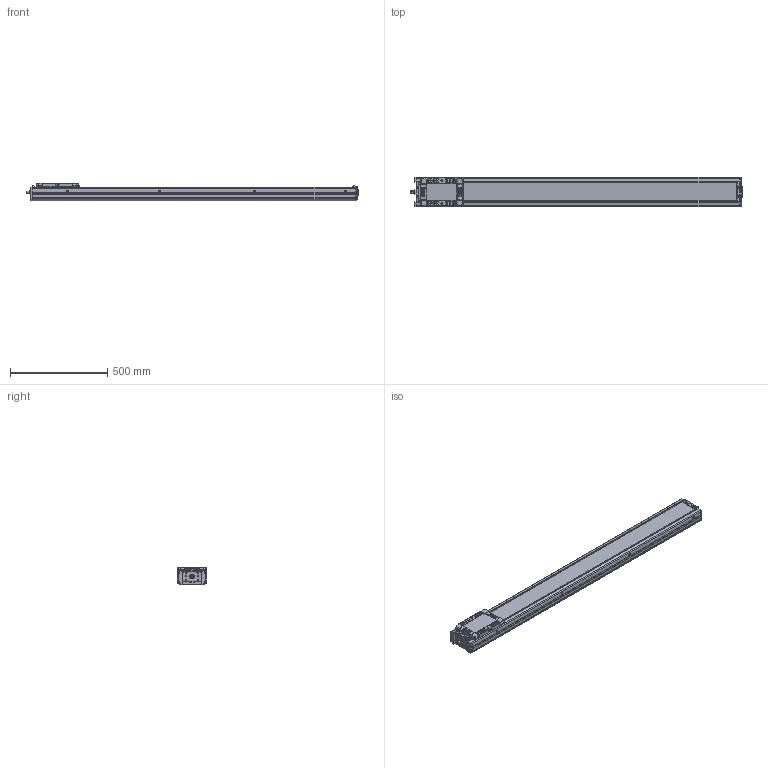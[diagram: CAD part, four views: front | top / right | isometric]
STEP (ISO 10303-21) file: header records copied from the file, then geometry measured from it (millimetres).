
FILE_DESCRIPTION(('STEP AP214'),'1');
FILE_NAME('Z:/Web/3D/SAN150/2013.04 (STP.)/SAN150ㅁㅁ-1400.stp','2013-05-07T08:29:33',(' '),(' '),'Spatial InterOp 3D',' ',' ');
FILE_SCHEMA(('automotive_design'));
Length unit declared in the file: millimetre
Products named in the file (39): SLBL-SAN150; SLCV-SAN150; FHCS M4.0 x 8.0; BHCS M4.0 x 10.0; SFX-SAN150; RRCV-SAN150; FRBL-SAN150; Spacer; RN15; FRCV-SAN150; Screw 20; BASE-SAN150-000L ; SUS COVER; 스크루 : Round - M5.0 x 6.0
Bounding box: 1708 x 150 x 90 mm (x, y, z)
Volume: 8647722.4 mm3; surface area: 1587207.5 mm2
Topology: 39 solids, 39 shells, 2299 faces, 5924 edges, 3761 vertices
Faces by surface type: plane 1047, cylinder 849, cone 314, sphere 56, bspline 21, torus 12
Entity records: 91933 total; most frequent: CARTESIAN_POINT 15677, DIRECTION 12554, ORIENTED_EDGE 11568, EDGE_CURVE 5784, AXIS2_PLACEMENT_3D 4577, VERTEX_POINT 3761, LINE 3400, VECTOR 3400
